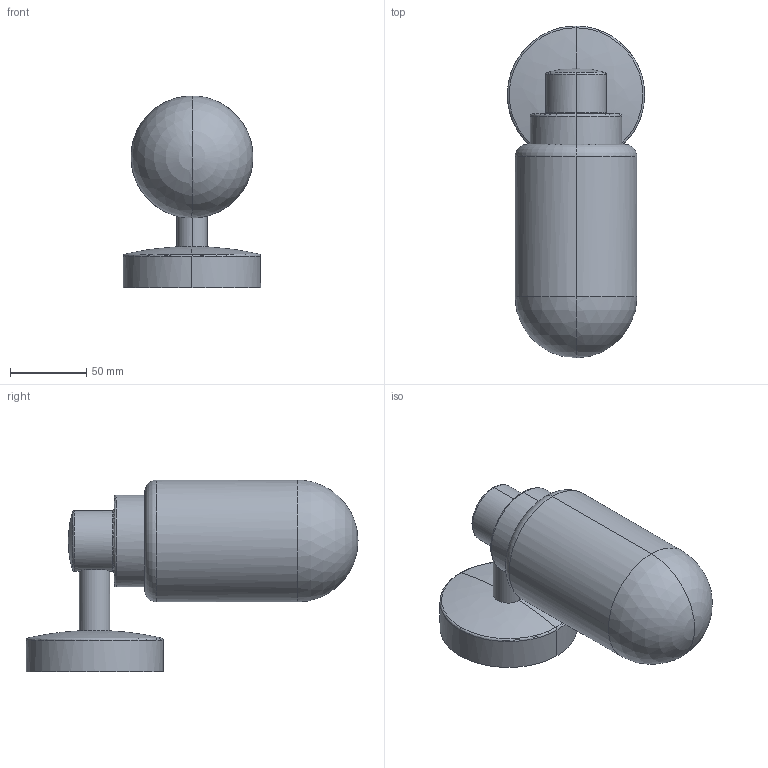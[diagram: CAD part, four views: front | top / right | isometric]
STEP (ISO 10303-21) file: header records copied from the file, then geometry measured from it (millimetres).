
FILE_DESCRIPTION(/* description */ (''),/* implementation_level */ '2;1');
FILE_NAME(/* name */ 'C:\Users\Franco Sartori E\Documents\FARO\DUPLICADO\Modelos\01_Digitalizados\2_Pendiente 2D\2_BRUME\03_Publicación\40076.stp',/* time_stamp */ '2020-09-25T10:37:07+02:00',/* author */ ('Franco Sartori E'),/* organization */ (''),/* preprocessor_version */ 'ST-DEVELOPER v18',/* originating_system */ 'AutoCAD Mechanical',/* authorisation */ '');
FILE_SCHEMA (('AUTOMOTIVE_DESIGN { 1 0 10303 214 3 1 1 }'));
Length unit declared in the file: millimetre
Products named in the file (2): Product; 40076_BRUME - BRUME-443196-_3D_
Assembly tree (1 placements, depth 2):
  Product
    40076_BRUME - BRUME-443196-_3D_
Bounding box: 90 x 217.73 x 125.89 mm (x, y, z)
Volume: 217964.6 mm3; surface area: 151282.4 mm2
Topology: 4 solids, 4 shells, 104 faces, 275 edges, 169 vertices
Faces by surface type: plane 36, cylinder 36, torus 16, sphere 10, bspline 4, cone 2
Entity records: 4508 total; most frequent: CARTESIAN_POINT 2113, ORIENTED_EDGE 530, DIRECTION 417, EDGE_CURVE 265, VERTEX_POINT 169, AXIS2_PLACEMENT_3D 161, B_SPLINE_CURVE_WITH_KNOTS 112, EDGE_LOOP 110
